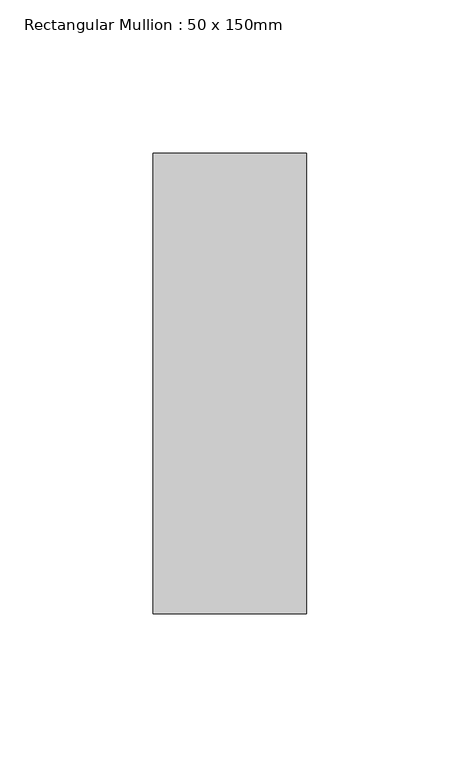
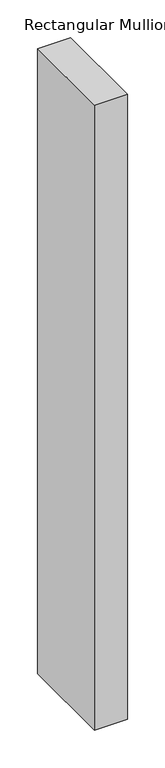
"""IFC4 building model written with IfcOpenShell, lengths in millimetres: member geometry, Rectangular Mullion : 50 x 150mm."""

from ifc_helpers import new_model, si_unit, frame, origin, place, context, project, spatial, polyline, outline, extrude, source, transform, mapped, element, save


def rectangular_mullion_50_x_150mm_8df5a83b(model_context):
    return source(origin(), model_context, "Body", "SweptSolid", [
        extrude(outline(polyline([(25.0, 75.0), (25.0, -75.0), (-25.0, -75.0), (-25.0, 75.0), (25.0, 75.0)])), frame((0.0, 0.0, -1006.25), z_axis=(0.0, 0.0, 1.0), x_axis=(1.0, 0.0, 0.0)), (0.0, 0.0, 1.0), 1006.25),
    ])


if __name__ == "__main__":
    model = new_model("IFC4")
    model_context = context("Model", 3, world=origin())
    ifc_project = project(units=[si_unit("LENGTHUNIT", "METRE", prefix="MILLI")], contexts=[model_context])
    site = spatial("IfcSite", under=ifc_project)
    building = spatial("IfcBuilding", under=site)
    placement = place(None, origin())
    rectangular_mullion_50_x_150mm_shape = rectangular_mullion_50_x_150mm_8df5a83b(model_context)
    element("IfcMember", 1, ObjectType="Rectangular Mullion : 50 x 150mm", at=placement, inside=building, context=model_context, shape_type="MappedRepresentation", body=[
        mapped(rectangular_mullion_50_x_150mm_shape, transform((0.0, 0.0, 0.0), x_axis=(1.0, 0.0, 0.0), y_axis=(0.0, 1.0, 0.0), z_axis=(0.0, 0.0, 1.0))),
    ])
    save(model, "model.ifc")
